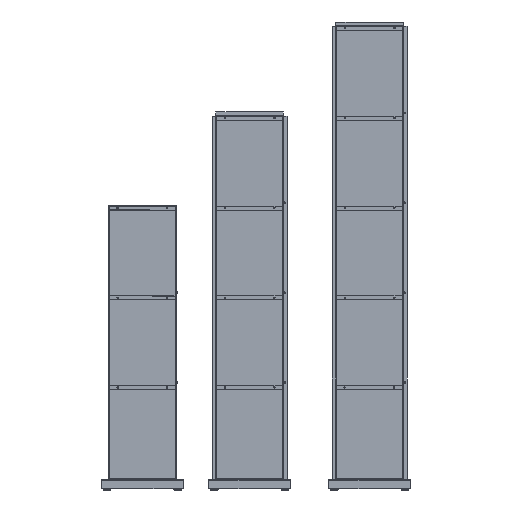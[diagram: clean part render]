
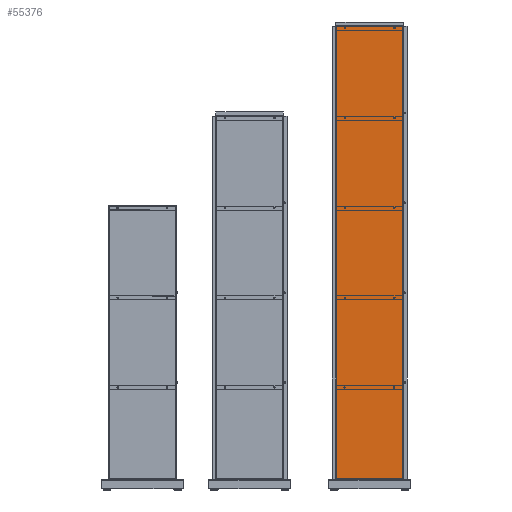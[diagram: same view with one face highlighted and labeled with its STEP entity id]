
A CAD part, front view. The second image highlights one B-rep face of the part: STEP entity #55376.
In plain terms, the highlighted planar face has unit normal (0, -1, 0).
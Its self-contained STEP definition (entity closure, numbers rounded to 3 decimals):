
#16962=B_SPLINE_CURVE_WITH_KNOTS('',1,(#302464,#302465),.UNSPECIFIED.,.F.,
 .F.,(2,2),(-295.,0.),.UNSPECIFIED.);
#16963=B_SPLINE_CURVE_WITH_KNOTS('',1,(#302466,#302467),.UNSPECIFIED.,.F.,
 .F.,(2,2),(-2015.,0.),.UNSPECIFIED.);
#16964=B_SPLINE_CURVE_WITH_KNOTS('',1,(#302468,#302469),.UNSPECIFIED.,.F.,
 .F.,(2,2),(-295.,0.),.UNSPECIFIED.);
#16965=B_SPLINE_CURVE_WITH_KNOTS('',1,(#302470,#302471),.UNSPECIFIED.,.F.,
 .F.,(2,2),(-2015.,0.),.UNSPECIFIED.);
#19121=PLANE('',#148472);
#55376=ADVANCED_FACE('',(#60926),#19121,.T.);
#60926=FACE_OUTER_BOUND('',#66908,.T.);
#66908=EDGE_LOOP('',(#87552,#87553,#87554,#87555));
#87552=ORIENTED_EDGE('',*,*,#105534,.F.);
#87553=ORIENTED_EDGE('',*,*,#105535,.F.);
#87554=ORIENTED_EDGE('',*,*,#105536,.F.);
#87555=ORIENTED_EDGE('',*,*,#105533,.F.);
#105533=EDGE_CURVE('',#120724,#120725,#16962,.T.);
#105534=EDGE_CURVE('',#120726,#120724,#16963,.T.);
#105535=EDGE_CURVE('',#120727,#120726,#16964,.T.);
#105536=EDGE_CURVE('',#120725,#120727,#16965,.T.);
#120724=VERTEX_POINT('',#302364);
#120725=VERTEX_POINT('',#302365);
#120726=VERTEX_POINT('',#302366);
#120727=VERTEX_POINT('',#302367);
#148472=AXIS2_PLACEMENT_3D('',#302045,#151921,$);
#151921=DIRECTION('',(0.,-1.,0.));
#302045=CARTESIAN_POINT('',(177.61,-1.5,1209.61));
#302364=CARTESIAN_POINT('',(147.5,-1.5,-1007.5));
#302365=CARTESIAN_POINT('',(-147.5,-1.5,-1007.5));
#302366=CARTESIAN_POINT('',(147.5,-1.5,1007.5));
#302367=CARTESIAN_POINT('',(-147.5,-1.5,1007.5));
#302464=CARTESIAN_POINT('',(147.5,-1.5,-1007.5));
#302465=CARTESIAN_POINT('',(-147.5,-1.5,-1007.5));
#302466=CARTESIAN_POINT('',(147.5,-1.5,1007.5));
#302467=CARTESIAN_POINT('',(147.5,-1.5,-1007.5));
#302468=CARTESIAN_POINT('',(-147.5,-1.5,1007.5));
#302469=CARTESIAN_POINT('',(147.5,-1.5,1007.5));
#302470=CARTESIAN_POINT('',(-147.5,-1.5,-1007.5));
#302471=CARTESIAN_POINT('',(-147.5,-1.5,1007.5));
